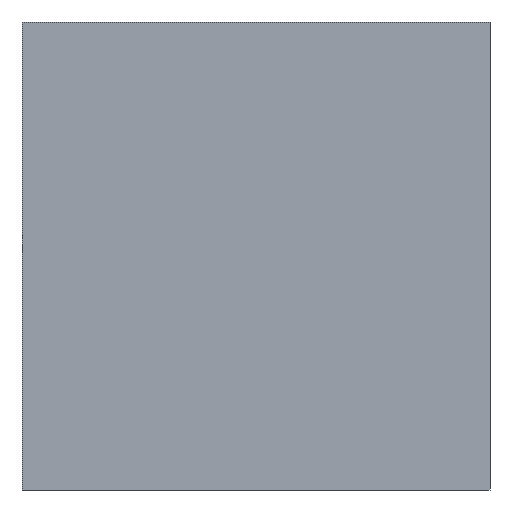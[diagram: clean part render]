
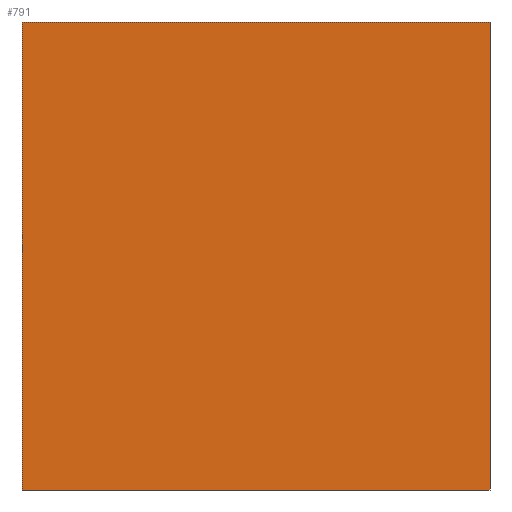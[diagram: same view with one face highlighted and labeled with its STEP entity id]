
A CAD part, front view. The second image highlights one B-rep face of the part: STEP entity #791.
In plain terms, the highlighted planar face has unit normal (0, -1, 0).
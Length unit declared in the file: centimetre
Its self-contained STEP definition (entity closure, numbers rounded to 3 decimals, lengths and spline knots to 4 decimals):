
#48 = FACE_OUTER_BOUND ( 'NONE', #231, .T. ) ;
#57 = VECTOR ( 'NONE', #178, 100. ) ;
#99 = EDGE_CURVE ( 'NONE', #386, #371, #739, .T. ) ;
#109 = LINE ( 'NONE', #324, #57 ) ;
#120 = CARTESIAN_POINT ( 'NONE',  ( 0., 0., 0. ) ) ;
#125 = VECTOR ( 'NONE', #355, 100. ) ;
#134 = EDGE_CURVE ( 'NONE', #232, #671, #492, .T. ) ;
#138 = VECTOR ( 'NONE', #339, 100. ) ;
#156 = CARTESIAN_POINT ( 'NONE',  ( 0., 0., 1000. ) ) ;
#173 = ORIENTED_EDGE ( 'NONE', *, *, #778, .T. ) ;
#178 = DIRECTION ( 'NONE',  ( 0., 0., -1. ) ) ;
#231 = EDGE_LOOP ( 'NONE', ( #456, #237, #738, #173 ) ) ;
#232 = VERTEX_POINT ( 'NONE', #120 ) ;
#237 = ORIENTED_EDGE ( 'NONE', *, *, #737, .F. ) ;
#324 = CARTESIAN_POINT ( 'NONE',  ( 0., 0., 1000. ) ) ;
#339 = DIRECTION ( 'NONE',  ( 1., 0., 0. ) ) ;
#355 = DIRECTION ( 'NONE',  ( 1., 0., 0. ) ) ;
#362 = LINE ( 'NONE', #574, #393 ) ;
#371 = VERTEX_POINT ( 'NONE', #494 ) ;
#386 = VERTEX_POINT ( 'NONE', #156 ) ;
#387 = DIRECTION ( 'NONE',  ( 0., 0., 1. ) ) ;
#393 = VECTOR ( 'NONE', #631, 100. ) ;
#399 = CARTESIAN_POINT ( 'NONE',  ( 0., 0., 1000. ) ) ;
#450 = CARTESIAN_POINT ( 'NONE',  ( 1000., 0., 0. ) ) ;
#456 = ORIENTED_EDGE ( 'NONE', *, *, #134, .T. ) ;
#492 = LINE ( 'NONE', #801, #138 ) ;
#494 = CARTESIAN_POINT ( 'NONE',  ( 1000., 0., 1000. ) ) ;
#574 = CARTESIAN_POINT ( 'NONE',  ( 1000., 0., 1000. ) ) ;
#631 = DIRECTION ( 'NONE',  ( 0., 0., -1. ) ) ;
#661 = DIRECTION ( 'NONE',  ( 0., 1., 0. ) ) ;
#671 = VERTEX_POINT ( 'NONE', #450 ) ;
#731 = PLANE ( 'NONE',  #873 ) ;
#737 = EDGE_CURVE ( 'NONE', #371, #671, #362, .T. ) ;
#738 = ORIENTED_EDGE ( 'NONE', *, *, #99, .F. ) ;
#739 = LINE ( 'NONE', #872, #125 ) ;
#778 = EDGE_CURVE ( 'NONE', #386, #232, #109, .T. ) ;
#791 = ADVANCED_FACE ( 'NONE', ( #48 ), #731, .F. ) ;
#801 = CARTESIAN_POINT ( 'NONE',  ( 0., 0., 0. ) ) ;
#872 = CARTESIAN_POINT ( 'NONE',  ( 0., 0., 1000. ) ) ;
#873 = AXIS2_PLACEMENT_3D ( 'NONE', #399, #661, #387 ) ;
